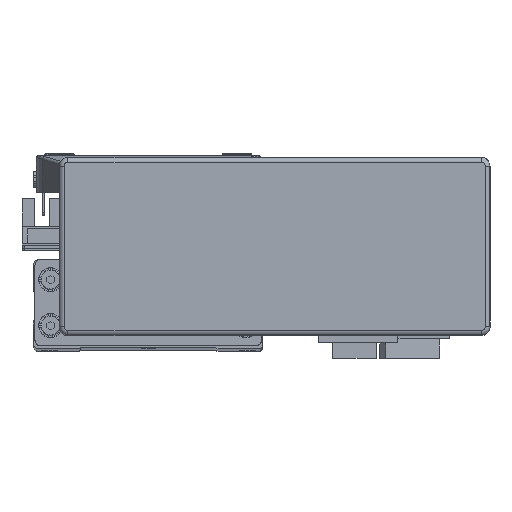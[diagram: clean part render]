
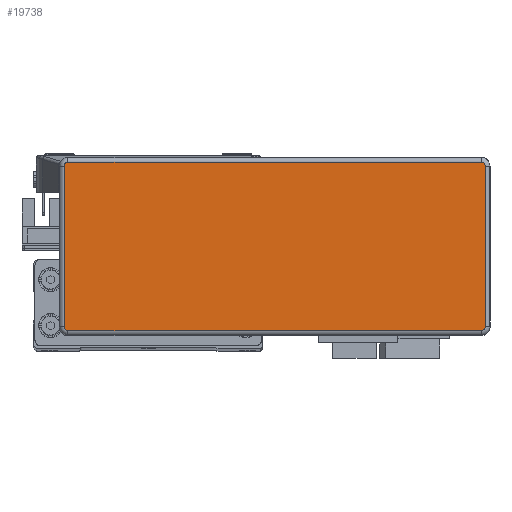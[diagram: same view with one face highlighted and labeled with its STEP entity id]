
A CAD part, top view. The second image highlights one B-rep face of the part: STEP entity #19738.
In plain terms, the highlighted planar face has unit normal (0, 0, 1) as drawn and (0, 0, -1) by its records, which use the part's own axes.
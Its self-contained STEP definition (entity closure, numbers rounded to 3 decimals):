
#1693 = AXIS2_PLACEMENT_3D ( 'NONE', #29905, #29906, #29892 ) ;
#4417 = AXIS2_PLACEMENT_3D ( 'NONE', #24132, #24139, #24134 ) ;
#4449 = AXIS2_PLACEMENT_3D ( 'NONE', #24143, #24154, #24152 ) ;
#4515 = AXIS2_PLACEMENT_3D ( 'NONE', #24096, #24079, #24091 ) ;
#4573 = AXIS2_PLACEMENT_3D ( 'NONE', #24178, #24203, #24193 ) ;
#10119 = CARTESIAN_POINT ( 'NONE',  ( 71.995, -29.295, -32.2 ) ) ;
#10157 = CARTESIAN_POINT ( 'NONE',  ( 73.295, -27.995, -32.2 ) ) ;
#10167 = CARTESIAN_POINT ( 'NONE',  ( -73.295, 27.995, -32.2 ) ) ;
#10175 = CARTESIAN_POINT ( 'NONE',  ( -73.295, -27.995, -32.2 ) ) ;
#10185 = CARTESIAN_POINT ( 'NONE',  ( 73.295, 27.995, -32.2 ) ) ;
#10197 = CARTESIAN_POINT ( 'NONE',  ( -71.995, -29.295, -32.2 ) ) ;
#12020 = CARTESIAN_POINT ( 'NONE',  ( -71.995, 29.295, -32.2 ) ) ;
#12030 = CARTESIAN_POINT ( 'NONE',  ( 71.995, 29.295, -32.2 ) ) ;
#19738 = ADVANCED_FACE ( 'NONE', ( #41591 ), #29902, .F. ) ;
#22608 = CIRCLE ( 'NONE', #4515, 1.3 ) ;
#22662 = LINE ( 'NONE', #24003, #22672 ) ;
#22672 = VECTOR ( 'NONE', #24061, 1000. ) ;
#22675 = VECTOR ( 'NONE', #24050, 1000. ) ;
#22677 = LINE ( 'NONE', #24008, #22675 ) ;
#22732 = CIRCLE ( 'NONE', #4449, 1.3 ) ;
#22740 = LINE ( 'NONE', #24165, #22845 ) ;
#22750 = LINE ( 'NONE', #24093, #22826 ) ;
#22791 = CIRCLE ( 'NONE', #4573, 1.3 ) ;
#22826 = VECTOR ( 'NONE', #24097, 1000. ) ;
#22835 = CIRCLE ( 'NONE', #4417, 1.3 ) ;
#22845 = VECTOR ( 'NONE', #24187, 1000. ) ;
#24003 = CARTESIAN_POINT ( 'NONE',  ( 71.995, -29.295, -32.2 ) ) ;
#24008 = CARTESIAN_POINT ( 'NONE',  ( 73.295, -27.995, -32.2 ) ) ;
#24050 = DIRECTION ( 'NONE',  ( 0., -1., 0. ) ) ;
#24061 = DIRECTION ( 'NONE',  ( -1., 0., 0. ) ) ;
#24079 = DIRECTION ( 'NONE',  ( 0., 0., -1. ) ) ;
#24091 = DIRECTION ( 'NONE',  ( 1., 0., 0. ) ) ;
#24093 = CARTESIAN_POINT ( 'NONE',  ( 71.995, 29.295, -32.2 ) ) ;
#24096 = CARTESIAN_POINT ( 'NONE',  ( -71.995, 27.995, -32.2 ) ) ;
#24097 = DIRECTION ( 'NONE',  ( 1., 0., 0. ) ) ;
#24132 = CARTESIAN_POINT ( 'NONE',  ( 71.995, -27.995, -32.2 ) ) ;
#24134 = DIRECTION ( 'NONE',  ( 1., 0., 0. ) ) ;
#24139 = DIRECTION ( 'NONE',  ( 0., 0., -1. ) ) ;
#24143 = CARTESIAN_POINT ( 'NONE',  ( -71.995, -27.995, -32.2 ) ) ;
#24152 = DIRECTION ( 'NONE',  ( 1., 0., 0. ) ) ;
#24154 = DIRECTION ( 'NONE',  ( 0., 0., -1. ) ) ;
#24165 = CARTESIAN_POINT ( 'NONE',  ( -73.295, -27.995, -32.2 ) ) ;
#24178 = CARTESIAN_POINT ( 'NONE',  ( 71.995, 27.995, -32.2 ) ) ;
#24187 = DIRECTION ( 'NONE',  ( 0., 1., 0. ) ) ;
#24193 = DIRECTION ( 'NONE',  ( 1., 0., 0. ) ) ;
#24203 = DIRECTION ( 'NONE',  ( 0., 0., -1. ) ) ;
#28198 = VERTEX_POINT ( 'NONE', #12030 ) ;
#28204 = VERTEX_POINT ( 'NONE', #12020 ) ;
#28215 = VERTEX_POINT ( 'NONE', #10157 ) ;
#28226 = VERTEX_POINT ( 'NONE', #10185 ) ;
#28227 = VERTEX_POINT ( 'NONE', #10119 ) ;
#28235 = VERTEX_POINT ( 'NONE', #10175 ) ;
#28239 = VERTEX_POINT ( 'NONE', #10167 ) ;
#28244 = VERTEX_POINT ( 'NONE', #10197 ) ;
#29892 = DIRECTION ( 'NONE',  ( 1., 0., 0. ) ) ;
#29902 = PLANE ( 'NONE',  #1693 ) ;
#29905 = CARTESIAN_POINT ( 'NONE',  ( 71.995, -27.995, -32.2 ) ) ;
#29906 = DIRECTION ( 'NONE',  ( 0., 0., 1. ) ) ;
#40145 = ORIENTED_EDGE ( 'NONE', *, *, #43337, .T. ) ;
#40162 = ORIENTED_EDGE ( 'NONE', *, *, #43304, .T. ) ;
#40182 = ORIENTED_EDGE ( 'NONE', *, *, #43305, .T. ) ;
#40185 = ORIENTED_EDGE ( 'NONE', *, *, #43334, .T. ) ;
#40186 = ORIENTED_EDGE ( 'NONE', *, *, #43321, .T. ) ;
#40197 = ORIENTED_EDGE ( 'NONE', *, *, #43353, .T. ) ;
#40216 = ORIENTED_EDGE ( 'NONE', *, *, #43357, .T. ) ;
#40237 = ORIENTED_EDGE ( 'NONE', *, *, #43332, .T. ) ;
#40284 = EDGE_LOOP ( 'NONE', ( #40182, #40145, #40162, #40185, #40216, #40186, #40237, #40197 ) ) ;
#41591 = FACE_OUTER_BOUND ( 'NONE', #40284, .T. ) ;
#43304 = EDGE_CURVE ( 'NONE', #28227, #28244, #22662, .T. ) ;
#43305 = EDGE_CURVE ( 'NONE', #28226, #28215, #22677, .T. ) ;
#43321 = EDGE_CURVE ( 'NONE', #28239, #28204, #22608, .T. ) ;
#43332 = EDGE_CURVE ( 'NONE', #28204, #28198, #22750, .T. ) ;
#43334 = EDGE_CURVE ( 'NONE', #28244, #28235, #22732, .T. ) ;
#43337 = EDGE_CURVE ( 'NONE', #28215, #28227, #22835, .T. ) ;
#43353 = EDGE_CURVE ( 'NONE', #28198, #28226, #22791, .T. ) ;
#43357 = EDGE_CURVE ( 'NONE', #28235, #28239, #22740, .T. ) ;
